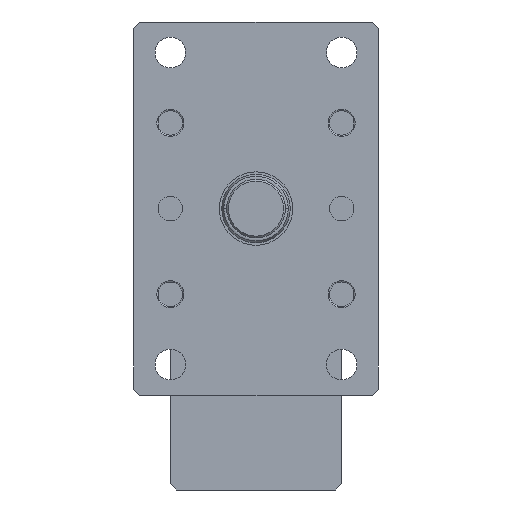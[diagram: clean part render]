
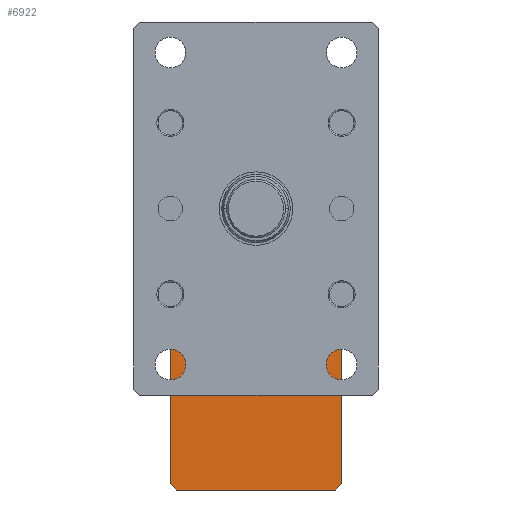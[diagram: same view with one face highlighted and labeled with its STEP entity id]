
A CAD part, left-side view. The second image highlights one B-rep face of the part: STEP entity #6922.
In plain terms, the highlighted planar face has unit normal (-1, 0, 0).
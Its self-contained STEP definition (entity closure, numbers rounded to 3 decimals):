
#87 = DIRECTION ( 'NONE',  ( 1., 0., 0. ) ) ;
#120 = VECTOR ( 'NONE', #4716, 1000. ) ;
#127 = LINE ( 'NONE', #304, #7189 ) ;
#142 = LINE ( 'NONE', #932, #5168 ) ;
#162 = VERTEX_POINT ( 'NONE', #3102 ) ;
#304 = CARTESIAN_POINT ( 'NONE',  ( 377.5, -70., -230. ) ) ;
#308 = DIRECTION ( 'NONE',  ( 0., -0.707, 0.707 ) ) ;
#377 = EDGE_CURVE ( 'NONE', #162, #1654, #912, .T. ) ;
#443 = LINE ( 'NONE', #3353, #5463 ) ;
#776 = LINE ( 'NONE', #7810, #2814 ) ;
#912 = LINE ( 'NONE', #3598, #6127 ) ;
#932 = CARTESIAN_POINT ( 'NONE',  ( 377.5, 65., -230. ) ) ;
#1042 = ORIENTED_EDGE ( 'NONE', *, *, #2056, .T. ) ;
#1295 = EDGE_CURVE ( 'NONE', #7766, #1654, #142, .T. ) ;
#1431 = VECTOR ( 'NONE', #2249, 1000. ) ;
#1654 = VERTEX_POINT ( 'NONE', #7058 ) ;
#1800 = DIRECTION ( 'NONE',  ( 0., 0.707, -0.707 ) ) ;
#2056 = EDGE_CURVE ( 'NONE', #5313, #7128, #8478, .T. ) ;
#2249 = DIRECTION ( 'NONE',  ( 0., 0.707, 0.707 ) ) ;
#2676 = EDGE_CURVE ( 'NONE', #7766, #5295, #7179, .T. ) ;
#2814 = VECTOR ( 'NONE', #308, 1000. ) ;
#2850 = EDGE_LOOP ( 'NONE', ( #7859, #1042, #3545, #5184, #4347, #8469, #3057, #3033 ) ) ;
#2875 = CARTESIAN_POINT ( 'NONE',  ( 377.5, 65., -90. ) ) ;
#3001 = CARTESIAN_POINT ( 'NONE',  ( 377.5, -65., -90. ) ) ;
#3033 = ORIENTED_EDGE ( 'NONE', *, *, #8345, .T. ) ;
#3057 = ORIENTED_EDGE ( 'NONE', *, *, #377, .F. ) ;
#3102 = CARTESIAN_POINT ( 'NONE',  ( 377.5, -65., -230. ) ) ;
#3106 = LINE ( 'NONE', #5877, #7164 ) ;
#3345 = CARTESIAN_POINT ( 'NONE',  ( 377.5, 70., -230. ) ) ;
#3353 = CARTESIAN_POINT ( 'NONE',  ( 377.5, 70., -90. ) ) ;
#3444 = CARTESIAN_POINT ( 'NONE',  ( 377.5, -70., -225. ) ) ;
#3512 = PLANE ( 'NONE',  #8320 ) ;
#3545 = ORIENTED_EDGE ( 'NONE', *, *, #8622, .T. ) ;
#3556 = CARTESIAN_POINT ( 'NONE',  ( 377.5, -70., -95. ) ) ;
#3598 = CARTESIAN_POINT ( 'NONE',  ( 377.5, 70., -230. ) ) ;
#3823 = FACE_OUTER_BOUND ( 'NONE', #2850, .T. ) ;
#4293 = CARTESIAN_POINT ( 'NONE',  ( 377.5, -70., -95. ) ) ;
#4333 = DIRECTION ( 'NONE',  ( 0., -0.707, -0.707 ) ) ;
#4347 = ORIENTED_EDGE ( 'NONE', *, *, #2676, .F. ) ;
#4406 = DIRECTION ( 'NONE',  ( 0., 0., 1. ) ) ;
#4449 = VERTEX_POINT ( 'NONE', #2875 ) ;
#4716 = DIRECTION ( 'NONE',  ( 0., 0., 1. ) ) ;
#4821 = CARTESIAN_POINT ( 'NONE',  ( 377.5, 70., -225. ) ) ;
#4878 = DIRECTION ( 'NONE',  ( 0., 1., 0. ) ) ;
#4959 = EDGE_CURVE ( 'NONE', #4449, #5295, #3106, .T. ) ;
#4963 = DIRECTION ( 'NONE',  ( 0., 1., 0. ) ) ;
#5168 = VECTOR ( 'NONE', #4333, 1000. ) ;
#5184 = ORIENTED_EDGE ( 'NONE', *, *, #4959, .T. ) ;
#5295 = VERTEX_POINT ( 'NONE', #5590 ) ;
#5313 = VERTEX_POINT ( 'NONE', #3556 ) ;
#5463 = VECTOR ( 'NONE', #8829, 1000. ) ;
#5590 = CARTESIAN_POINT ( 'NONE',  ( 377.5, 70., -95. ) ) ;
#5877 = CARTESIAN_POINT ( 'NONE',  ( 377.5, 70., -95. ) ) ;
#6127 = VECTOR ( 'NONE', #4963, 1000. ) ;
#6262 = VERTEX_POINT ( 'NONE', #3444 ) ;
#6922 = ADVANCED_FACE ( 'NONE', ( #3823 ), #3512, .F. ) ;
#7058 = CARTESIAN_POINT ( 'NONE',  ( 377.5, 65., -230. ) ) ;
#7128 = VERTEX_POINT ( 'NONE', #3001 ) ;
#7164 = VECTOR ( 'NONE', #1800, 1000. ) ;
#7179 = LINE ( 'NONE', #8817, #120 ) ;
#7189 = VECTOR ( 'NONE', #4406, 1000. ) ;
#7766 = VERTEX_POINT ( 'NONE', #4821 ) ;
#7810 = CARTESIAN_POINT ( 'NONE',  ( 377.5, -65., -230. ) ) ;
#7859 = ORIENTED_EDGE ( 'NONE', *, *, #7987, .T. ) ;
#7987 = EDGE_CURVE ( 'NONE', #6262, #5313, #127, .T. ) ;
#8320 = AXIS2_PLACEMENT_3D ( 'NONE', #3345, #87, #4878 ) ;
#8345 = EDGE_CURVE ( 'NONE', #162, #6262, #776, .T. ) ;
#8469 = ORIENTED_EDGE ( 'NONE', *, *, #1295, .T. ) ;
#8478 = LINE ( 'NONE', #4293, #1431 ) ;
#8622 = EDGE_CURVE ( 'NONE', #7128, #4449, #443, .T. ) ;
#8817 = CARTESIAN_POINT ( 'NONE',  ( 377.5, 70., -230. ) ) ;
#8829 = DIRECTION ( 'NONE',  ( 0., 1., 0. ) ) ;
